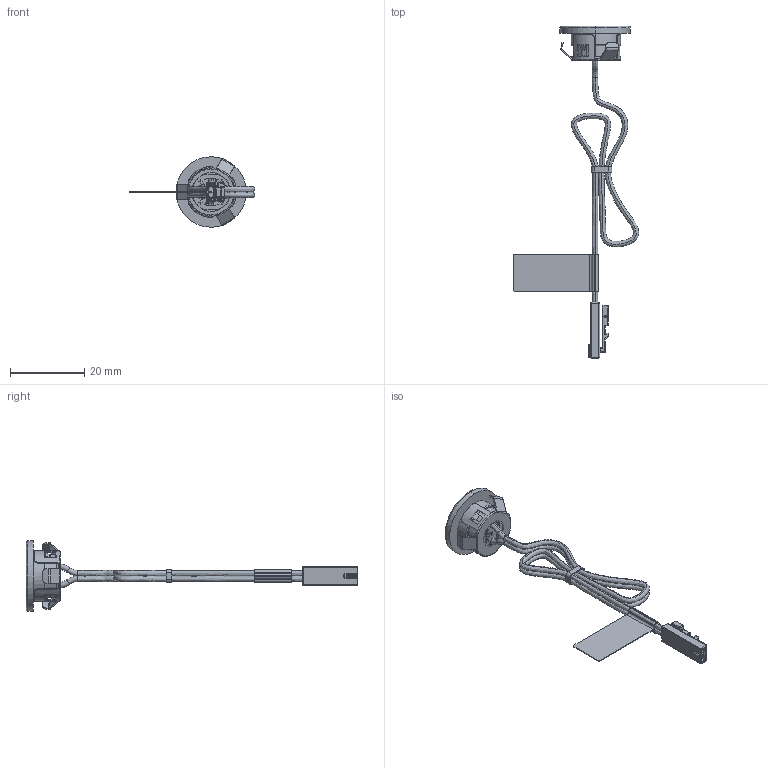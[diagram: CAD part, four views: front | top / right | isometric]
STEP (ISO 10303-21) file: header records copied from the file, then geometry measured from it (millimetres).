
FILE_DESCRIPTION (( 'STEP AP203' ), '1' );
FILE_NAME ('MiniSpot_15_24.STEP', '2024-11-28T05:59:28', ( '' ), ( '' ), 'SwSTEP 2.0', 'SolidWorks 2023', '' );
FILE_SCHEMA (( 'CONFIG_CONTROL_DESIGN' ));
Length unit declared in the file: millimetre
Products named in the file (8): MiniSpot_15_24; Linsenhalter_MiniSpot_Lieferant; Lieferantenfeder; Aufkleber_DUMMY_CE_MWI; Gehaeuse_mit_Raster_MiniSpot_15er_Bohrung_Fuer_Feder_15er_Bohrung_Kragen 19mm; Linse_MiniSpot_Lieferant; LED_PCB_MiniSpot_Umbau_Technik_halemeier; M1_Stecker_MiniSpot_FLEX
Assembly tree (7 placements, depth 2):
  MiniSpot_15_24
    Gehaeuse_mit_Raster_MiniSpot_15er_Bohrung_Fuer_Feder_15er_Bohrung_Kragen 19mm
    Linsenhalter_MiniSpot_Lieferant
    Linse_MiniSpot_Lieferant
    LED_PCB_MiniSpot_Umbau_Technik_halemeier
    M1_Stecker_MiniSpot_FLEX
    Aufkleber_DUMMY_CE_MWI
    Lieferantenfeder
Bounding box: 33.92 x 89.6 x 19 mm (x, y, z)
Volume: 1973.8 mm3; surface area: 5739.7 mm2
Topology: 9 solids, 9 shells, 807 faces, 2108 edges, 1301 vertices
Faces by surface type: plane 346, cylinder 216, bspline 151, torus 52, sphere 31, cone 11
Entity records: 34809 total; most frequent: CARTESIAN_POINT 15168, ORIENTED_EDGE 4128, DIRECTION 3605, EDGE_CURVE 2064, VERTEX_POINT 1301, AXIS2_PLACEMENT_3D 1246, LINE 1113, VECTOR 1113
